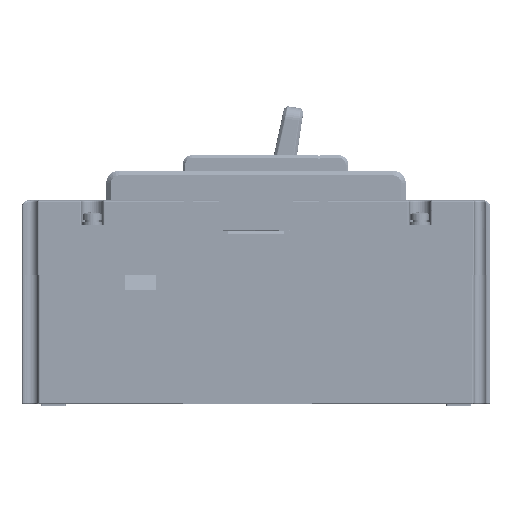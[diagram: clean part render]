
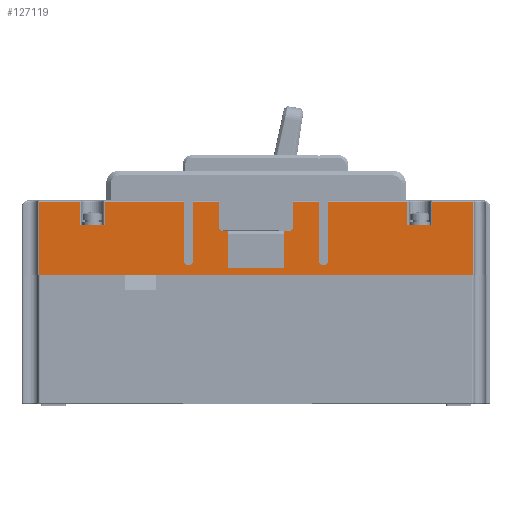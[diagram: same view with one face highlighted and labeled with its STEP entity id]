
A CAD part, left-side view. The second image highlights one B-rep face of the part: STEP entity #127119.
In plain terms, the highlighted planar face has unit normal (-1, 0, 0).
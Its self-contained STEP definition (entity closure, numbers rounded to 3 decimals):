
#101128=DIRECTION('',(0.,-1.,0.));
#101129=VECTOR('',#101128,8.);
#101130=CARTESIAN_POINT('',(-46.,56.5,16.));
#101131=LINE('',#101130,#101129);
#101132=CARTESIAN_POINT('',(-46.,21.7,4.5));
#101133=DIRECTION('',(-1.,0.,0.));
#101134=DIRECTION('',(0.,1.,0.));
#101135=AXIS2_PLACEMENT_3D('',#101132,#101133,#101134);
#101137=DIRECTION('',(0.,0.,1.));
#101138=VECTOR('',#101137,18.8);
#101139=CARTESIAN_POINT('',(-46.,20.2,4.5));
#101140=LINE('',#101139,#101138);
#101141=CARTESIAN_POINT('',(-46.,10.5,15.5));
#101142=DIRECTION('',(-1.,0.,0.));
#101143=DIRECTION('',(0.,1.,0.));
#101144=AXIS2_PLACEMENT_3D('',#101141,#101142,#101143);
#101146=DIRECTION('',(0.,-1.,0.));
#101147=VECTOR('',#101146,1.6);
#101148=CARTESIAN_POINT('',(-46.,10.5,14.));
#101149=LINE('',#101148,#101147);
#101150=DIRECTION('',(0.,0.,-1.));
#101151=VECTOR('',#101150,12.);
#101152=CARTESIAN_POINT('',(-46.,8.9,14.));
#101153=LINE('',#101152,#101151);
#101154=DIRECTION('',(0.,-1.,0.));
#101155=VECTOR('',#101154,17.8);
#101156=CARTESIAN_POINT('',(-46.,8.9,2.));
#101157=LINE('',#101156,#101155);
#101158=DIRECTION('',(0.,-1.,0.));
#101159=VECTOR('',#101158,1.6);
#101160=CARTESIAN_POINT('',(-46.,-8.9,14.));
#101161=LINE('',#101160,#101159);
#101162=CARTESIAN_POINT('',(-46.,-10.5,15.5));
#101163=DIRECTION('',(-1.,0.,0.));
#101164=DIRECTION('',(0.,0.,-1.));
#101165=AXIS2_PLACEMENT_3D('',#101162,#101163,#101164);
#101167=DIRECTION('',(0.,0.,1.));
#101168=VECTOR('',#101167,7.8);
#101169=CARTESIAN_POINT('',(-46.,-12.,15.5));
#101170=LINE('',#101169,#101168);
#101171=CARTESIAN_POINT('',(-46.,-21.7,4.5));
#101172=DIRECTION('',(-1.,0.,0.));
#101173=DIRECTION('',(0.,1.,0.));
#101174=AXIS2_PLACEMENT_3D('',#101171,#101172,#101173);
#101176=DIRECTION('',(0.,0.,1.));
#101177=VECTOR('',#101176,18.8);
#101178=CARTESIAN_POINT('',(-46.,-23.2,4.5));
#101179=LINE('',#101178,#101177);
#101180=DIRECTION('',(0.,-1.,0.));
#101181=VECTOR('',#101180,8.);
#101182=CARTESIAN_POINT('',(-46.,-48.5,16.));
#101183=LINE('',#101182,#101181);
#101184=DIRECTION('',(0.,-1.,0.));
#101185=VECTOR('',#101184,139.101);
#101186=CARTESIAN_POINT('',(-46.,69.551,0.));
#101187=LINE('',#101186,#101185);
#101936=DIRECTION('',(0.,0.,1.));
#101937=VECTOR('',#101936,23.3);
#101938=CARTESIAN_POINT('',(-46.,-69.551,0.));
#101939=LINE('',#101938,#101937);
#101955=DIRECTION('',(0.,1.,0.));
#101956=VECTOR('',#101955,13.051);
#101957=CARTESIAN_POINT('',(-46.,-69.551,23.3));
#101958=LINE('',#101957,#101956);
#101978=DIRECTION('',(0.,0.,-1.));
#101979=VECTOR('',#101978,7.3);
#101980=CARTESIAN_POINT('',(-46.,-56.5,23.3));
#101981=LINE('',#101980,#101979);
#102033=DIRECTION('',(0.,0.,1.));
#102034=VECTOR('',#102033,7.3);
#102035=CARTESIAN_POINT('',(-46.,-48.5,16.));
#102036=LINE('',#102035,#102034);
#102056=DIRECTION('',(0.,1.,0.));
#102057=VECTOR('',#102056,25.3);
#102058=CARTESIAN_POINT('',(-46.,-48.5,23.3));
#102059=LINE('',#102058,#102057);
#102082=DIRECTION('',(0.,0.,1.));
#102083=VECTOR('',#102082,18.8);
#102084=CARTESIAN_POINT('',(-46.,-20.2,4.5));
#102085=LINE('',#102084,#102083);
#102086=DIRECTION('',(0.,1.,0.));
#102087=VECTOR('',#102086,8.2);
#102088=CARTESIAN_POINT('',(-46.,-20.2,23.3));
#102089=LINE('',#102088,#102087);
#102172=DIRECTION('',(0.,0.,1.));
#102173=VECTOR('',#102172,7.8);
#102174=CARTESIAN_POINT('',(-46.,12.,15.5));
#102175=LINE('',#102174,#102173);
#102181=DIRECTION('',(0.,1.,0.));
#102182=VECTOR('',#102181,8.2);
#102183=CARTESIAN_POINT('',(-46.,12.,23.3));
#102184=LINE('',#102183,#102182);
#102211=DIRECTION('',(0.,0.,1.));
#102212=VECTOR('',#102211,18.8);
#102213=CARTESIAN_POINT('',(-46.,23.2,4.5));
#102214=LINE('',#102213,#102212);
#102215=DIRECTION('',(0.,1.,0.));
#102216=VECTOR('',#102215,25.3);
#102217=CARTESIAN_POINT('',(-46.,23.2,23.3));
#102218=LINE('',#102217,#102216);
#102238=DIRECTION('',(0.,0.,-1.));
#102239=VECTOR('',#102238,7.3);
#102240=CARTESIAN_POINT('',(-46.,48.5,23.3));
#102241=LINE('',#102240,#102239);
#110351=DIRECTION('',(0.,0.,-1.));
#110352=VECTOR('',#110351,23.3);
#110353=CARTESIAN_POINT('',(-46.,69.551,23.3));
#110354=LINE('',#110353,#110352);
#117707=DIRECTION('',(0.,1.,0.));
#117708=VECTOR('',#117707,13.051);
#117709=CARTESIAN_POINT('',(-46.,56.5,23.3));
#117710=LINE('',#117709,#117708);
#117730=DIRECTION('',(0.,0.,1.));
#117731=VECTOR('',#117730,7.3);
#117732=CARTESIAN_POINT('',(-46.,56.5,16.));
#117733=LINE('',#117732,#117731);
#120118=DIRECTION('',(0.,0.,-1.));
#120119=VECTOR('',#120118,12.);
#120120=CARTESIAN_POINT('',(-46.,-8.9,14.));
#120121=LINE('',#120120,#120119);
#121585=CARTESIAN_POINT('',(-46.,69.551,0.));
#121586=CARTESIAN_POINT('',(-46.,-69.551,0.));
#121587=VERTEX_POINT('',#121585);
#121588=VERTEX_POINT('',#121586);
#121589=CARTESIAN_POINT('',(-46.,69.551,23.3));
#121590=VERTEX_POINT('',#121589);
#121591=CARTESIAN_POINT('',(-46.,56.5,23.3));
#121592=VERTEX_POINT('',#121591);
#121593=CARTESIAN_POINT('',(-46.,56.5,16.));
#121594=VERTEX_POINT('',#121593);
#121595=CARTESIAN_POINT('',(-46.,48.5,16.));
#121596=VERTEX_POINT('',#121595);
#121597=CARTESIAN_POINT('',(-46.,48.5,23.3));
#121598=VERTEX_POINT('',#121597);
#121599=CARTESIAN_POINT('',(-46.,23.2,23.3));
#121600=VERTEX_POINT('',#121599);
#121601=CARTESIAN_POINT('',(-46.,23.2,4.5));
#121602=VERTEX_POINT('',#121601);
#121603=CARTESIAN_POINT('',(-46.,20.2,4.5));
#121604=VERTEX_POINT('',#121603);
#121605=CARTESIAN_POINT('',(-46.,20.2,23.3));
#121606=VERTEX_POINT('',#121605);
#121607=CARTESIAN_POINT('',(-46.,12.,23.3));
#121608=VERTEX_POINT('',#121607);
#121609=CARTESIAN_POINT('',(-46.,12.,15.5));
#121610=VERTEX_POINT('',#121609);
#121611=CARTESIAN_POINT('',(-46.,10.5,14.));
#121612=VERTEX_POINT('',#121611);
#121613=CARTESIAN_POINT('',(-46.,8.9,14.));
#121614=VERTEX_POINT('',#121613);
#121615=CARTESIAN_POINT('',(-46.,8.9,2.));
#121616=VERTEX_POINT('',#121615);
#121617=CARTESIAN_POINT('',(-46.,-8.9,2.));
#121618=VERTEX_POINT('',#121617);
#121619=CARTESIAN_POINT('',(-46.,-8.9,14.));
#121620=VERTEX_POINT('',#121619);
#121621=CARTESIAN_POINT('',(-46.,-10.5,14.));
#121622=VERTEX_POINT('',#121621);
#121623=CARTESIAN_POINT('',(-46.,-12.,15.5));
#121624=VERTEX_POINT('',#121623);
#121625=CARTESIAN_POINT('',(-46.,-12.,23.3));
#121626=VERTEX_POINT('',#121625);
#121627=CARTESIAN_POINT('',(-46.,-20.2,23.3));
#121628=VERTEX_POINT('',#121627);
#121629=CARTESIAN_POINT('',(-46.,-20.2,4.5));
#121630=VERTEX_POINT('',#121629);
#121631=CARTESIAN_POINT('',(-46.,-23.2,4.5));
#121632=VERTEX_POINT('',#121631);
#121633=CARTESIAN_POINT('',(-46.,-23.2,23.3));
#121634=VERTEX_POINT('',#121633);
#121635=CARTESIAN_POINT('',(-46.,-48.5,23.3));
#121636=VERTEX_POINT('',#121635);
#121637=CARTESIAN_POINT('',(-46.,-48.5,16.));
#121638=VERTEX_POINT('',#121637);
#121639=CARTESIAN_POINT('',(-46.,-56.5,16.));
#121640=VERTEX_POINT('',#121639);
#121641=CARTESIAN_POINT('',(-46.,-56.5,23.3));
#121642=VERTEX_POINT('',#121641);
#121643=CARTESIAN_POINT('',(-46.,-69.551,23.3));
#121644=VERTEX_POINT('',#121643);
#127052=CARTESIAN_POINT('',(-46.,75.,0.));
#127053=DIRECTION('',(-1.,0.,0.));
#127054=DIRECTION('',(0.,-1.,0.));
#127055=AXIS2_PLACEMENT_3D('',#127052,#127053,#127054);
#127056=PLANE('',#127055);
#127058=ORIENTED_EDGE('',*,*,#127057,.F.);
#127060=ORIENTED_EDGE('',*,*,#127059,.F.);
#127062=ORIENTED_EDGE('',*,*,#127061,.F.);
#127064=ORIENTED_EDGE('',*,*,#127063,.F.);
#127066=ORIENTED_EDGE('',*,*,#127065,.T.);
#127068=ORIENTED_EDGE('',*,*,#127067,.F.);
#127070=ORIENTED_EDGE('',*,*,#127069,.F.);
#127072=ORIENTED_EDGE('',*,*,#127071,.F.);
#127074=ORIENTED_EDGE('',*,*,#127073,.T.);
#127076=ORIENTED_EDGE('',*,*,#127075,.T.);
#127078=ORIENTED_EDGE('',*,*,#127077,.F.);
#127080=ORIENTED_EDGE('',*,*,#127079,.F.);
#127082=ORIENTED_EDGE('',*,*,#127081,.T.);
#127084=ORIENTED_EDGE('',*,*,#127083,.T.);
#127086=ORIENTED_EDGE('',*,*,#127085,.T.);
#127088=ORIENTED_EDGE('',*,*,#127087,.T.);
#127090=ORIENTED_EDGE('',*,*,#127089,.F.);
#127092=ORIENTED_EDGE('',*,*,#127091,.T.);
#127094=ORIENTED_EDGE('',*,*,#127093,.T.);
#127096=ORIENTED_EDGE('',*,*,#127095,.T.);
#127098=ORIENTED_EDGE('',*,*,#127097,.F.);
#127100=ORIENTED_EDGE('',*,*,#127099,.F.);
#127102=ORIENTED_EDGE('',*,*,#127101,.T.);
#127104=ORIENTED_EDGE('',*,*,#127103,.T.);
#127106=ORIENTED_EDGE('',*,*,#127105,.F.);
#127108=ORIENTED_EDGE('',*,*,#127107,.F.);
#127110=ORIENTED_EDGE('',*,*,#127109,.T.);
#127112=ORIENTED_EDGE('',*,*,#127111,.F.);
#127114=ORIENTED_EDGE('',*,*,#127113,.F.);
#127116=ORIENTED_EDGE('',*,*,#127115,.F.);
#127117=EDGE_LOOP('',(#127058,#127060,#127062,#127064,#127066,#127068,#127070,
#127072,#127074,#127076,#127078,#127080,#127082,#127084,#127086,#127088,#127090,
#127092,#127094,#127096,#127098,#127100,#127102,#127104,#127106,#127108,#127110,
#127112,#127114,#127116));
#127118=FACE_OUTER_BOUND('',#127117,.F.);
#127119=ADVANCED_FACE('',(#127118),#127056,.T.);
#101136=CIRCLE('',#101135,1.5);
#101145=CIRCLE('',#101144,1.5);
#101166=CIRCLE('',#101165,1.5);
#101175=CIRCLE('',#101174,1.5);
#127057=EDGE_CURVE('',#121587,#121588,#101187,.T.);
#127059=EDGE_CURVE('',#121590,#121587,#110354,.T.);
#127061=EDGE_CURVE('',#121592,#121590,#117710,.T.);
#127063=EDGE_CURVE('',#121594,#121592,#117733,.T.);
#127065=EDGE_CURVE('',#121594,#121596,#101131,.T.);
#127067=EDGE_CURVE('',#121598,#121596,#102241,.T.);
#127069=EDGE_CURVE('',#121600,#121598,#102218,.T.);
#127071=EDGE_CURVE('',#121602,#121600,#102214,.T.);
#127073=EDGE_CURVE('',#121602,#121604,#101136,.T.);
#127075=EDGE_CURVE('',#121604,#121606,#101140,.T.);
#127077=EDGE_CURVE('',#121608,#121606,#102184,.T.);
#127079=EDGE_CURVE('',#121610,#121608,#102175,.T.);
#127081=EDGE_CURVE('',#121610,#121612,#101145,.T.);
#127083=EDGE_CURVE('',#121612,#121614,#101149,.T.);
#127085=EDGE_CURVE('',#121614,#121616,#101153,.T.);
#127087=EDGE_CURVE('',#121616,#121618,#101157,.T.);
#127089=EDGE_CURVE('',#121620,#121618,#120121,.T.);
#127091=EDGE_CURVE('',#121620,#121622,#101161,.T.);
#127093=EDGE_CURVE('',#121622,#121624,#101166,.T.);
#127095=EDGE_CURVE('',#121624,#121626,#101170,.T.);
#127097=EDGE_CURVE('',#121628,#121626,#102089,.T.);
#127099=EDGE_CURVE('',#121630,#121628,#102085,.T.);
#127101=EDGE_CURVE('',#121630,#121632,#101175,.T.);
#127103=EDGE_CURVE('',#121632,#121634,#101179,.T.);
#127105=EDGE_CURVE('',#121636,#121634,#102059,.T.);
#127107=EDGE_CURVE('',#121638,#121636,#102036,.T.);
#127109=EDGE_CURVE('',#121638,#121640,#101183,.T.);
#127111=EDGE_CURVE('',#121642,#121640,#101981,.T.);
#127113=EDGE_CURVE('',#121644,#121642,#101958,.T.);
#127115=EDGE_CURVE('',#121588,#121644,#101939,.T.);
